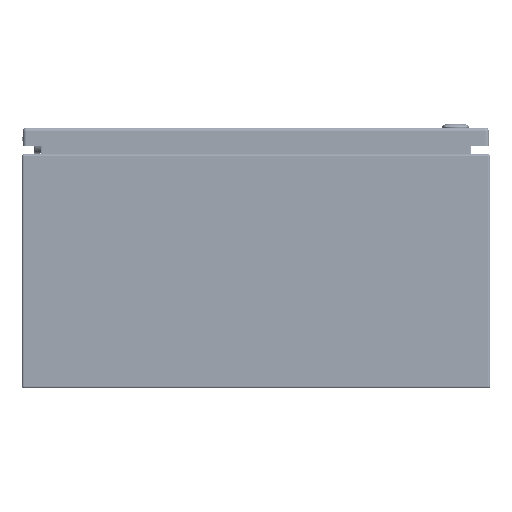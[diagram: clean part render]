
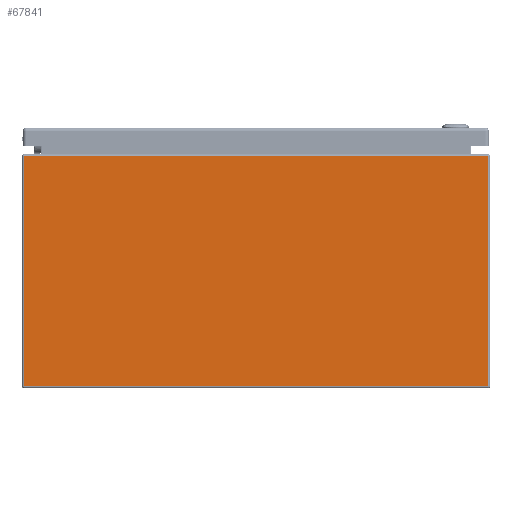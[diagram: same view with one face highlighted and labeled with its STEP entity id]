
A CAD part, front view. The second image highlights one B-rep face of the part: STEP entity #67841.
In plain terms, the highlighted planar face has unit normal (0, -1, 0).
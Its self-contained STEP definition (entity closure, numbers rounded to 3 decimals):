
#6433=LINE('',#95517,#10691);
#6438=LINE('',#95536,#10696);
#6440=LINE('',#95542,#10698);
#6441=LINE('',#95543,#10699);
#10691=VECTOR('',#79144,0.394);
#10696=VECTOR('',#79167,0.394);
#10698=VECTOR('',#79173,0.394);
#10699=VECTOR('',#79174,0.394);
#15933=FACE_OUTER_BOUND('',#20096,.T.);
#20096=EDGE_LOOP('',(#45151,#45152,#45153,#45154));
#27292=VERTEX_POINT('',#95514);
#27293=VERTEX_POINT('',#95516);
#27298=VERTEX_POINT('',#95535);
#27300=VERTEX_POINT('',#95541);
#34217=EDGE_CURVE('',#27292,#27293,#6433,.T.);
#34227=EDGE_CURVE('',#27298,#27293,#6438,.T.);
#34230=EDGE_CURVE('',#27292,#27300,#6440,.T.);
#34231=EDGE_CURVE('',#27298,#27300,#6441,.T.);
#45151=ORIENTED_EDGE('',*,*,#34217,.F.);
#45152=ORIENTED_EDGE('',*,*,#34230,.T.);
#45153=ORIENTED_EDGE('',*,*,#34231,.F.);
#45154=ORIENTED_EDGE('',*,*,#34227,.T.);
#66335=PLANE('',#72920);
#67841=ADVANCED_FACE('',(#15933),#66335,.F.);
#72920=AXIS2_PLACEMENT_3D('',#95540,#79171,#79172);
#79144=DIRECTION('',(0.,0.,-1.));
#79167=DIRECTION('',(1.,0.,0.));
#79171=DIRECTION('center_axis',(0.,1.,0.));
#79172=DIRECTION('ref_axis',(1.,0.,0.));
#79173=DIRECTION('',(-1.,0.,0.));
#79174=DIRECTION('',(0.,0.,1.));
#95514=CARTESIAN_POINT('',(9.916,-15.,9.916));
#95516=CARTESIAN_POINT('',(9.916,-15.,0.084));
#95517=CARTESIAN_POINT('',(9.916,-15.,5.013));
#95535=CARTESIAN_POINT('',(-9.916,-15.,0.084));
#95536=CARTESIAN_POINT('',(0.,-15.,0.084));
#95540=CARTESIAN_POINT('Origin',(0.,-15.,5.013));
#95541=CARTESIAN_POINT('',(-9.916,-15.,9.916));
#95542=CARTESIAN_POINT('',(-4.963,-15.,9.916));
#95543=CARTESIAN_POINT('',(-9.916,-15.,5.013));
